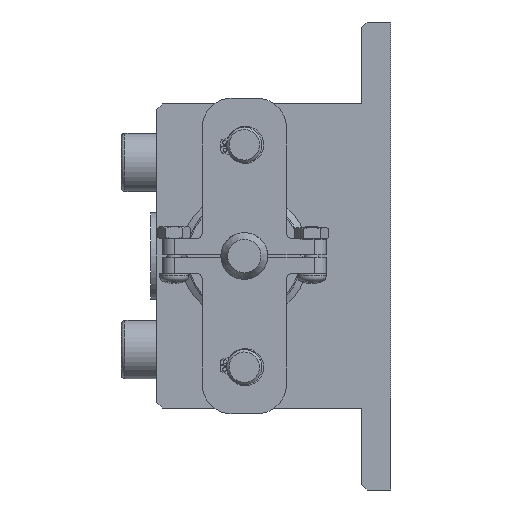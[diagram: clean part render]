
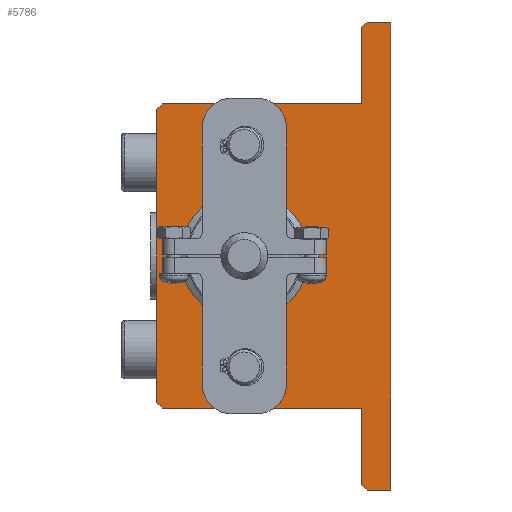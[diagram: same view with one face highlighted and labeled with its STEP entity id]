
A CAD part, left-side view. The second image highlights one B-rep face of the part: STEP entity #5786.
In plain terms, the highlighted planar face has unit normal (-1, 0, 0) as drawn and (0, -1, 0) by its records, which use the part's own axes.
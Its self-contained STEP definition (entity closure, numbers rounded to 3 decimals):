
#445=PLANE('',#6783);
#525=FACE_BOUND('',#1243,.T.);
#526=FACE_BOUND('',#1244,.T.);
#527=FACE_BOUND('',#1245,.T.);
#857=FACE_OUTER_BOUND('',#1242,.T.);
#1242=EDGE_LOOP('',(#5158,#5159,#5160,#5161,#5162,#5163,#5164,#5165,#5166,
#5167,#5168,#5169));
#1243=EDGE_LOOP('',(#5170));
#1244=EDGE_LOOP('',(#5171));
#1245=EDGE_LOOP('',(#5172));
#1662=LINE('',#10590,#2087);
#1664=LINE('',#10594,#2089);
#1667=LINE('',#10602,#2092);
#1668=LINE('',#10604,#2093);
#1669=LINE('',#10606,#2094);
#1670=LINE('',#10608,#2095);
#1671=LINE('',#10610,#2096);
#1672=LINE('',#10612,#2097);
#1673=LINE('',#10614,#2098);
#1674=LINE('',#10616,#2099);
#1675=LINE('',#10618,#2100);
#1676=LINE('',#10619,#2101);
#2087=VECTOR('',#8348,10.);
#2089=VECTOR('',#8352,10.);
#2092=VECTOR('',#8359,10.);
#2093=VECTOR('',#8360,10.);
#2094=VECTOR('',#8361,10.);
#2095=VECTOR('',#8362,10.);
#2096=VECTOR('',#8363,10.);
#2097=VECTOR('',#8364,10.);
#2098=VECTOR('',#8365,10.);
#2099=VECTOR('',#8366,10.);
#2100=VECTOR('',#8367,10.);
#2101=VECTOR('',#8368,10.);
#2405=CIRCLE('',#6777,4.);
#2406=CIRCLE('',#6779,4.);
#2408=CIRCLE('',#6784,11.);
#2901=VERTEX_POINT('',#10576);
#2902=VERTEX_POINT('',#10580);
#2905=VERTEX_POINT('',#10587);
#2906=VERTEX_POINT('',#10589);
#2907=VERTEX_POINT('',#10593);
#2910=VERTEX_POINT('',#10601);
#2911=VERTEX_POINT('',#10603);
#2912=VERTEX_POINT('',#10605);
#2913=VERTEX_POINT('',#10607);
#2914=VERTEX_POINT('',#10609);
#2915=VERTEX_POINT('',#10611);
#2916=VERTEX_POINT('',#10613);
#2917=VERTEX_POINT('',#10615);
#2918=VERTEX_POINT('',#10617);
#2919=VERTEX_POINT('',#10620);
#3663=EDGE_CURVE('',#2901,#2901,#2405,.T.);
#3665=EDGE_CURVE('',#2902,#2902,#2406,.T.);
#3669=EDGE_CURVE('',#2905,#2906,#1662,.T.);
#3671=EDGE_CURVE('',#2906,#2907,#1664,.T.);
#3675=EDGE_CURVE('',#2910,#2905,#1667,.T.);
#3676=EDGE_CURVE('',#2911,#2910,#1668,.T.);
#3677=EDGE_CURVE('',#2912,#2911,#1669,.T.);
#3678=EDGE_CURVE('',#2913,#2912,#1670,.T.);
#3679=EDGE_CURVE('',#2914,#2913,#1671,.T.);
#3680=EDGE_CURVE('',#2915,#2914,#1672,.T.);
#3681=EDGE_CURVE('',#2916,#2915,#1673,.T.);
#3682=EDGE_CURVE('',#2917,#2916,#1674,.T.);
#3683=EDGE_CURVE('',#2918,#2917,#1675,.T.);
#3684=EDGE_CURVE('',#2907,#2918,#1676,.T.);
#3685=EDGE_CURVE('',#2919,#2919,#2408,.T.);
#5158=ORIENTED_EDGE('',*,*,#3669,.F.);
#5159=ORIENTED_EDGE('',*,*,#3675,.F.);
#5160=ORIENTED_EDGE('',*,*,#3676,.F.);
#5161=ORIENTED_EDGE('',*,*,#3677,.F.);
#5162=ORIENTED_EDGE('',*,*,#3678,.F.);
#5163=ORIENTED_EDGE('',*,*,#3679,.F.);
#5164=ORIENTED_EDGE('',*,*,#3680,.F.);
#5165=ORIENTED_EDGE('',*,*,#3681,.F.);
#5166=ORIENTED_EDGE('',*,*,#3682,.F.);
#5167=ORIENTED_EDGE('',*,*,#3683,.F.);
#5168=ORIENTED_EDGE('',*,*,#3684,.F.);
#5169=ORIENTED_EDGE('',*,*,#3671,.F.);
#5170=ORIENTED_EDGE('',*,*,#3663,.T.);
#5171=ORIENTED_EDGE('',*,*,#3665,.T.);
#5172=ORIENTED_EDGE('',*,*,#3685,.F.);
#5786=ADVANCED_FACE('',(#857,#525,#526,#527),#445,.F.);
#6777=AXIS2_PLACEMENT_3D('',#10577,#8336,#8337);
#6779=AXIS2_PLACEMENT_3D('',#10581,#8341,#8342);
#6783=AXIS2_PLACEMENT_3D('',#10600,#8357,#8358);
#6784=AXIS2_PLACEMENT_3D('',#10621,#8369,#8370);
#8336=DIRECTION('center_axis',(0.,1.,0.));
#8337=DIRECTION('ref_axis',(1.,0.,0.));
#8341=DIRECTION('center_axis',(0.,1.,0.));
#8342=DIRECTION('ref_axis',(1.,0.,0.));
#8348=DIRECTION('',(-0.707,0.,0.707));
#8352=DIRECTION('',(0.,0.,1.));
#8357=DIRECTION('center_axis',(0.,1.,0.));
#8358=DIRECTION('ref_axis',(0.,0.,1.));
#8359=DIRECTION('',(-1.,0.,0.));
#8360=DIRECTION('',(0.,0.,-1.));
#8361=DIRECTION('',(1.,0.,0.));
#8362=DIRECTION('',(0.707,0.,0.707));
#8363=DIRECTION('',(0.,0.,1.));
#8364=DIRECTION('',(1.,0.,0.));
#8365=DIRECTION('',(0.707,0.,0.707));
#8366=DIRECTION('',(0.,0.,1.));
#8367=DIRECTION('',(-0.707,0.,0.707));
#8368=DIRECTION('',(-1.,0.,0.));
#8369=DIRECTION('center_axis',(0.,-1.,0.));
#8370=DIRECTION('ref_axis',(1.,0.,0.));
#10576=CARTESIAN_POINT('',(-29.,0.,-19.));
#10577=CARTESIAN_POINT('Origin',(-25.,0.,-19.));
#10580=CARTESIAN_POINT('',(-29.,0.,19.));
#10581=CARTESIAN_POINT('Origin',(-25.,0.,19.));
#10587=CARTESIAN_POINT('',(-4.,0.,-40.));
#10589=CARTESIAN_POINT('',(-5.,0.,-39.));
#10590=CARTESIAN_POINT('',(-13.875,0.,-30.125));
#10593=CARTESIAN_POINT('',(-5.,0.,-26.));
#10594=CARTESIAN_POINT('',(-5.,0.,-40.));
#10600=CARTESIAN_POINT('Origin',(-2.5,0.,0.));
#10601=CARTESIAN_POINT('',(0.,0.,-40.));
#10602=CARTESIAN_POINT('',(0.,0.,-40.));
#10603=CARTESIAN_POINT('',(0.,0.,40.));
#10604=CARTESIAN_POINT('',(0.,0.,40.));
#10605=CARTESIAN_POINT('',(-4.,0.,40.));
#10606=CARTESIAN_POINT('',(-5.,0.,40.));
#10607=CARTESIAN_POINT('',(-5.,0.,39.));
#10608=CARTESIAN_POINT('',(-13.875,0.,30.125));
#10609=CARTESIAN_POINT('',(-5.,0.,26.));
#10610=CARTESIAN_POINT('',(-5.,0.,-40.));
#10611=CARTESIAN_POINT('',(-39.,0.,26.));
#10612=CARTESIAN_POINT('',(-40.,0.,26.));
#10613=CARTESIAN_POINT('',(-40.,0.,25.));
#10614=CARTESIAN_POINT('',(-36.625,0.,28.375));
#10615=CARTESIAN_POINT('',(-40.,0.,-25.));
#10616=CARTESIAN_POINT('',(-40.,0.,-26.));
#10617=CARTESIAN_POINT('',(-39.,0.,-26.));
#10618=CARTESIAN_POINT('',(-36.625,0.,-28.375));
#10619=CARTESIAN_POINT('',(0.,0.,-26.));
#10620=CARTESIAN_POINT('',(-36.,0.,0.));
#10621=CARTESIAN_POINT('Origin',(-25.,0.,0.));
